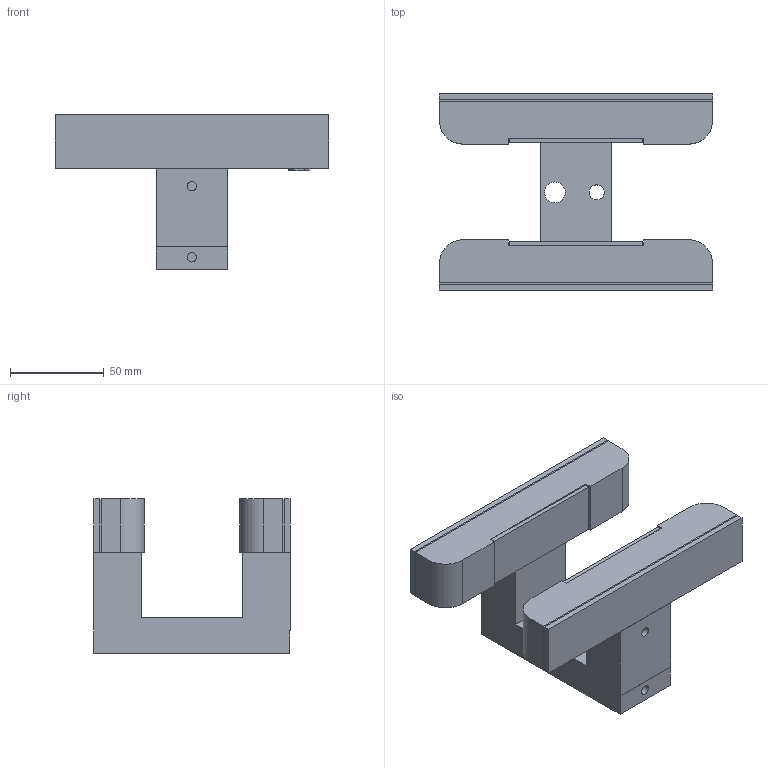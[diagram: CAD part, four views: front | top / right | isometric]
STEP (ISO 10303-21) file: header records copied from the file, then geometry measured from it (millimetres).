
FILE_DESCRIPTION((''),'2;1');
FILE_NAME('Model_SE-30-2X2_62626-B.stp','2008-01-11T14:00:06',(''),(''),'Mechanical Desktop 2008','Mechanical Desktop 2008',', , ');
FILE_SCHEMA(('AUTOMOTIVE_DESIGN { 1 2 10303 214 1 1 1 1 }'));
Length unit declared in the file: inch
Products named in the file (1): MODEL_SE-30-2X2_62626-B
Bounding box: 146.05 x 104.9 x 82.55 mm (x, y, z)
Volume: 358594.3 mm3; surface area: 101785.2 mm2
Topology: 13 solids, 13 shells, 118 faces, 264 edges, 176 vertices
Faces by surface type: plane 86, cylinder 32
Entity records: 3335 total; most frequent: DIRECTION 566, CARTESIAN_POINT 559, ORIENTED_EDGE 528, EDGE_CURVE 264, VECTOR 200, LINE 200, AXIS2_PLACEMENT_3D 183, VERTEX_POINT 176
